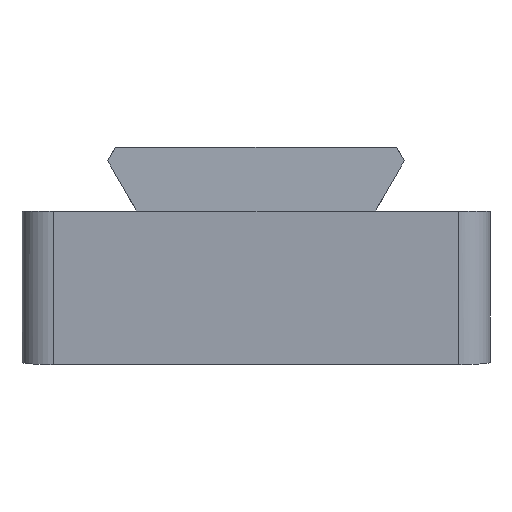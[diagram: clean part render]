
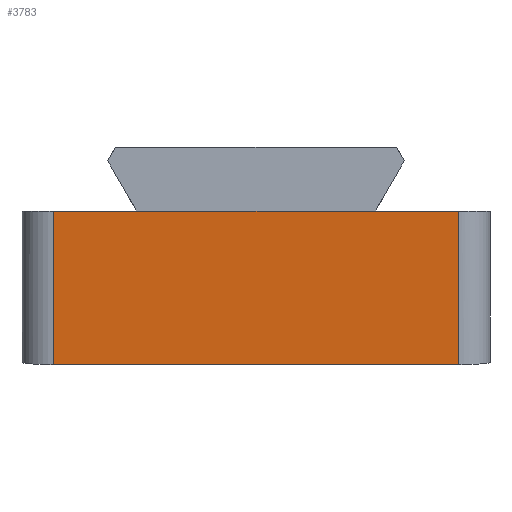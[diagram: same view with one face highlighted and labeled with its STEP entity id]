
A CAD part, left-side view. The second image highlights one B-rep face of the part: STEP entity #3783.
In plain terms, the highlighted planar face has unit normal (-0.998, 0, -0.07).
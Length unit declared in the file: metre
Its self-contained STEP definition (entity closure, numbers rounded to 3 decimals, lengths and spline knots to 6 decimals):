
#486=ORIENTED_EDGE('',*,*,#1440,.T.);
#487=ORIENTED_EDGE('',*,*,#1575,.T.);
#488=ORIENTED_EDGE('',*,*,#1370,.F.);
#489=ORIENTED_EDGE('',*,*,#1576,.T.);
#490=ORIENTED_EDGE('',*,*,#1452,.T.);
#491=ORIENTED_EDGE('',*,*,#1570,.T.);
#1370=EDGE_CURVE('',#1933,#1934,#2308,.T.);
#1440=EDGE_CURVE('',#1994,#2001,#2353,.T.);
#1452=EDGE_CURVE('',#2010,#1986,#2359,.T.);
#1570=EDGE_CURVE('',#1986,#1994,#2437,.T.);
#1575=EDGE_CURVE('',#2001,#1934,#2438,.T.);
#1576=EDGE_CURVE('',#1933,#2010,#2439,.F.);
#1933=VERTEX_POINT('',#5256);
#1934=VERTEX_POINT('',#5258);
#1986=VERTEX_POINT('',#5369);
#1994=VERTEX_POINT('',#5387);
#2001=VERTEX_POINT('',#5404);
#2010=VERTEX_POINT('',#5426);
#2308=LINE('',#5257,#2719);
#2353=LINE('',#5405,#2764);
#2359=LINE('',#5425,#2770);
#2437=LINE('',#5704,#2848);
#2438=LINE('',#5716,#2849);
#2439=LINE('',#5717,#2850);
#2719=VECTOR('',#4282,1.);
#2764=VECTOR('',#4397,1.);
#2770=VECTOR('',#4415,1.);
#2848=VECTOR('',#4541,1.);
#2849=VECTOR('',#4560,1.);
#2850=VECTOR('',#4561,1.);
#3169=EDGE_LOOP('',(#486,#487,#488,#489,#490,#491));
#3416=FACE_BOUND('',#3169,.T.);
#3638=PLANE('',#4063);
#3783=ADVANCED_FACE('',(#3416),#3638,.F.);
#4063=AXIS2_PLACEMENT_3D('',#5715,#4558,#4559);
#4282=DIRECTION('',(0.,1.,0.));
#4397=DIRECTION('',(0.,1.,0.));
#4415=DIRECTION('',(0.,1.,0.));
#4541=DIRECTION('',(0.,1.,0.));
#4558=DIRECTION('',(0.998,0.,0.07));
#4559=DIRECTION('',(0.07,0.,-0.998));
#4560=DIRECTION('',(0.07,0.,-0.998));
#4561=DIRECTION('',(0.07,0.,-0.998));
#5256=CARTESIAN_POINT('',(0.000687,-0.013,-0.009822));
#5257=CARTESIAN_POINT('',(0.000687,-0.015,-0.009822));
#5258=CARTESIAN_POINT('',(0.000687,0.013,-0.009822));
#5369=CARTESIAN_POINT('',(0.,-0.007695,0.));
#5387=CARTESIAN_POINT('',(0.,0.007695,0.));
#5404=CARTESIAN_POINT('',(0.,0.013,0.));
#5405=CARTESIAN_POINT('',(0.,-0.015,0.));
#5425=CARTESIAN_POINT('',(0.,-0.015,0.));
#5426=CARTESIAN_POINT('',(0.,-0.013,0.));
#5704=CARTESIAN_POINT('',(0.,0.,0.));
#5715=CARTESIAN_POINT('',(0.000343,-0.015,-0.004911));
#5716=CARTESIAN_POINT('',(0.000343,0.013,-0.004911));
#5717=CARTESIAN_POINT('',(0.,-0.013,0.));
